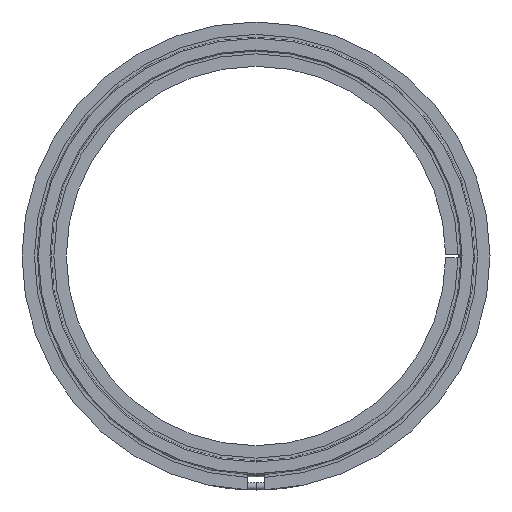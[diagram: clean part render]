
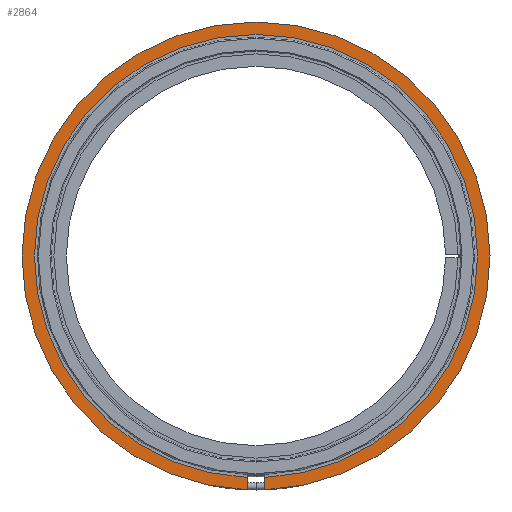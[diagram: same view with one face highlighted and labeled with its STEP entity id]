
A CAD part, left-side view. The second image highlights one B-rep face of the part: STEP entity #2864.
In plain terms, the highlighted planar face has unit normal (-1, 0, 0).
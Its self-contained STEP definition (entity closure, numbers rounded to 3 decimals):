
#895=CARTESIAN_POINT('',(-1.95,-62.5,0.));
#896=VERTEX_POINT('',#895);
#912=CARTESIAN_POINT('',(-1.95,-2.5,-62.45));
#913=VERTEX_POINT('',#912);
#920=CARTESIAN_POINT('',(-1.95,0.0,0.0));
#921=DIRECTION('',(1.0,0.0,0.0));
#922=DIRECTION('',(0.0,1.0,0.0));
#923=AXIS2_PLACEMENT_3D('',#920,#921,#922);
#924=CIRCLE('',#923,62.5);
#925=EDGE_CURVE('',#896,#913,#924,.T.);
#935=CARTESIAN_POINT('',(-1.95,62.5,0.));
#936=VERTEX_POINT('',#935);
#945=CARTESIAN_POINT('',(-1.95,2.5,-62.45));
#946=VERTEX_POINT('',#945);
#947=CARTESIAN_POINT('',(-1.95,0.0,0.0));
#948=DIRECTION('',(1.0,0.0,0.0));
#949=DIRECTION('',(0.0,1.0,0.0));
#950=AXIS2_PLACEMENT_3D('',#947,#948,#949);
#951=CIRCLE('',#950,62.5);
#952=EDGE_CURVE('',#946,#936,#951,.T.);
#979=CARTESIAN_POINT('',(-1.95,-66.0,0.));
#980=VERTEX_POINT('',#979);
#987=CARTESIAN_POINT('',(-1.95,-2.5,-65.953));
#988=VERTEX_POINT('',#987);
#989=CARTESIAN_POINT('',(-1.95,0.0,0.0));
#990=DIRECTION('',(1.0,0.0,0.0));
#991=DIRECTION('',(0.0,1.0,0.0));
#992=AXIS2_PLACEMENT_3D('',#989,#990,#991);
#993=CIRCLE('',#992,66.0);
#994=EDGE_CURVE('',#980,#988,#993,.T.);
#1019=CARTESIAN_POINT('',(-1.95,66.0,0.));
#1020=VERTEX_POINT('',#1019);
#1029=CARTESIAN_POINT('',(-1.95,0.0,0.0));
#1030=DIRECTION('',(1.0,0.0,0.0));
#1031=DIRECTION('',(0.0,1.0,0.0));
#1032=AXIS2_PLACEMENT_3D('',#1029,#1030,#1031);
#1033=CIRCLE('',#1032,66.0);
#1034=EDGE_CURVE('',#1020,#980,#1033,.T.);
#2453=CARTESIAN_POINT('',(-1.95,-2.5,-62.45));
#2454=DIRECTION('',(0.0,0.0,-1.0));
#2455=VECTOR('',#2454,3.503);
#2456=LINE('',#2453,#2455);
#2457=EDGE_CURVE('',#913,#988,#2456,.T.);
#2674=CARTESIAN_POINT('',(-1.95,2.5,-65.953));
#2675=VERTEX_POINT('',#2674);
#2676=CARTESIAN_POINT('',(-1.95,2.5,-65.953));
#2677=DIRECTION('',(0.0,0.0,1.0));
#2678=VECTOR('',#2677,3.503);
#2679=LINE('',#2676,#2678);
#2680=EDGE_CURVE('',#2675,#946,#2679,.T.);
#2800=CARTESIAN_POINT('',(-1.95,0.0,0.0));
#2801=DIRECTION('',(1.0,0.0,0.0));
#2802=DIRECTION('',(0.0,1.0,0.0));
#2803=AXIS2_PLACEMENT_3D('',#2800,#2801,#2802);
#2804=CIRCLE('',#2803,66.0);
#2805=EDGE_CURVE('',#2675,#1020,#2804,.T.);
#2839=CARTESIAN_POINT('',(-1.95,0.0,0.0));
#2840=DIRECTION('',(1.0,0.0,0.0));
#2841=DIRECTION('',(0.0,1.0,0.0));
#2842=AXIS2_PLACEMENT_3D('',#2839,#2840,#2841);
#2843=CIRCLE('',#2842,62.5);
#2844=EDGE_CURVE('',#936,#896,#2843,.T.);
#2849=CARTESIAN_POINT('',(-1.95,64.25,0.0));
#2850=DIRECTION('',(-1.0,0.0,0.0));
#2851=DIRECTION('',(0.0,0.0,1.0));
#2852=AXIS2_PLACEMENT_3D('',#2849,#2850,#2851);
#2853=PLANE('',#2852);
#2854=ORIENTED_EDGE('',*,*,#2457,.T.);
#2855=ORIENTED_EDGE('',*,*,#994,.F.);
#2856=ORIENTED_EDGE('',*,*,#1034,.F.);
#2857=ORIENTED_EDGE('',*,*,#2805,.F.);
#2858=ORIENTED_EDGE('',*,*,#2680,.T.);
#2859=ORIENTED_EDGE('',*,*,#952,.T.);
#2860=ORIENTED_EDGE('',*,*,#2844,.T.);
#2861=ORIENTED_EDGE('',*,*,#925,.T.);
#2862=EDGE_LOOP('',(#2854,#2855,#2856,#2857,#2858,#2859,#2860,#2861));
#2863=FACE_OUTER_BOUND('',#2862,.T.);
#2864=ADVANCED_FACE('',(#2863),#2853,.T.);
